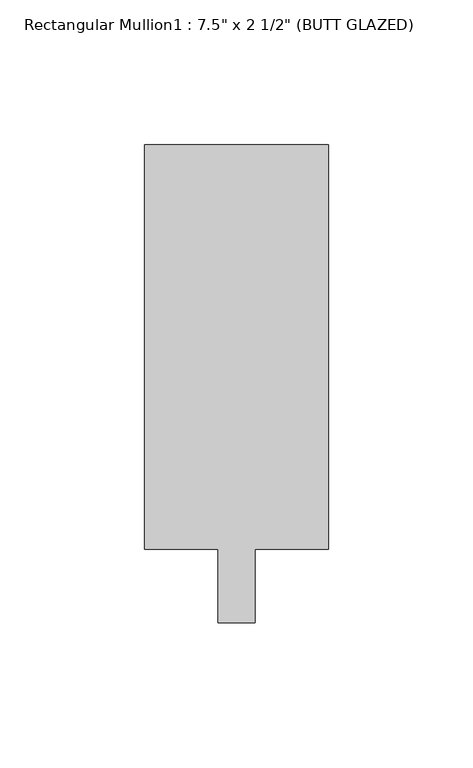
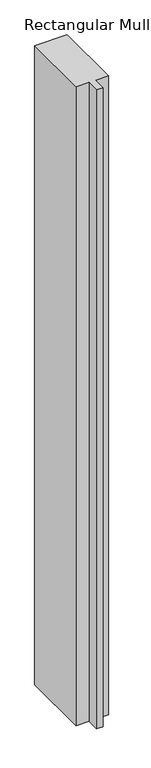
"""IFC4 building model written with IfcOpenShell, lengths in millimetres: member geometry."""

from ifc_helpers import new_model, si_unit, frame, origin, place, context, project, spatial, polyline, outline, extrude, source, transform, mapped, element, save


def member_2008cef6(model_context):
    return source(origin(), model_context, "Body", "SweptSolid", [
        extrude(outline(polyline([(31.75, 165.1), (31.75, 25.4), (6.35, 25.4), (6.35, 0.0), (-6.35, 0.0), (-6.35, 25.4), (-31.75, 25.4), (-31.75, 165.1), (31.75, 165.1)])), frame((0.0, 0.0, -1320.8), z_axis=(0.0, 0.0, 1.0), x_axis=(1.0, 0.0, 0.0)), (0.0, 0.0, 1.0), 1320.8),
    ])


if __name__ == "__main__":
    model = new_model("IFC4")
    model_context = context("Model", 3, world=origin())
    ifc_project = project(units=[si_unit("LENGTHUNIT", "METRE", prefix="MILLI")], contexts=[model_context])
    site = spatial("IfcSite", under=ifc_project)
    building = spatial("IfcBuilding", under=site)
    placement = place(None, origin())
    member_shape = member_2008cef6(model_context)
    element("IfcMember", 1, ObjectType="Rectangular Mullion1 : 7.5\" x 2 1/2\" (BUTT GLAZED)", at=placement, inside=building, context=model_context, shape_type="MappedRepresentation", body=[
        mapped(member_shape, transform((0.0, 0.0, 0.0), x_axis=(1.0, 0.0, 0.0), y_axis=(0.0, 1.0, 0.0), z_axis=(0.0, 0.0, 1.0))),
    ])
    save(model, "model.ifc")
